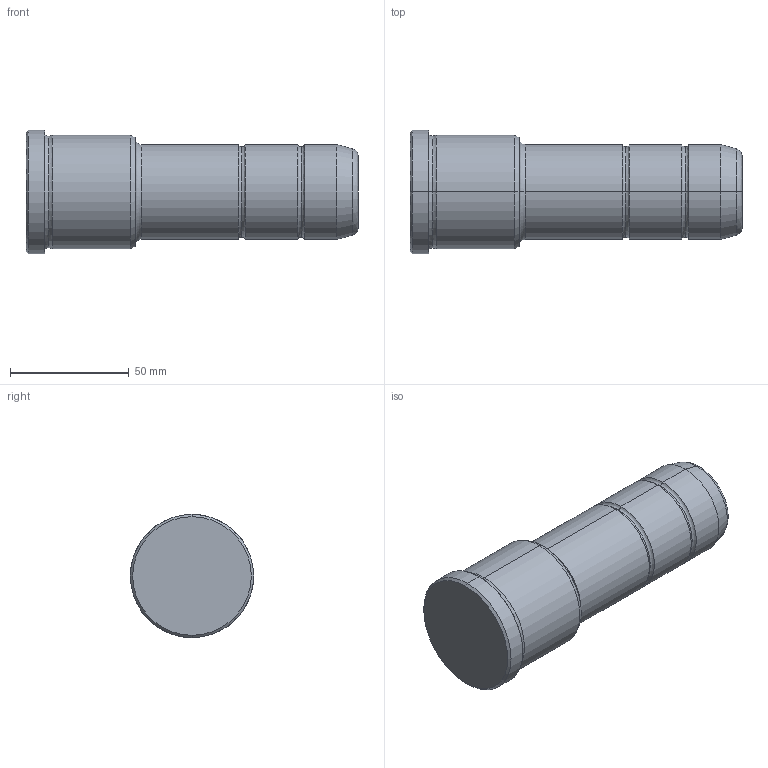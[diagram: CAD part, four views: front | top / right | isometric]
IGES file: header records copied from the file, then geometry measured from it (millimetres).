
Start section: START RECORD GO HERE.
Global section: file name: 351-40X46X140.igs; native system: DASSAULT SYSTEMES CATIA V5 R20 - www.3ds.com; preprocessor: CATIA Version 5 Release 20 ; author: Utente; organization: NB04-ASUS; date: 20211028.203716; units: millimetre
Bounding box: 140 x 52 x 52 mm (x, y, z)
Surface area: 22544.9 mm2 (no closed solid volume)
Topology: 0 solids, 0 shells, 36 faces, 204 edges, 204 vertices
Faces by surface type: revolution 32, plane 4
